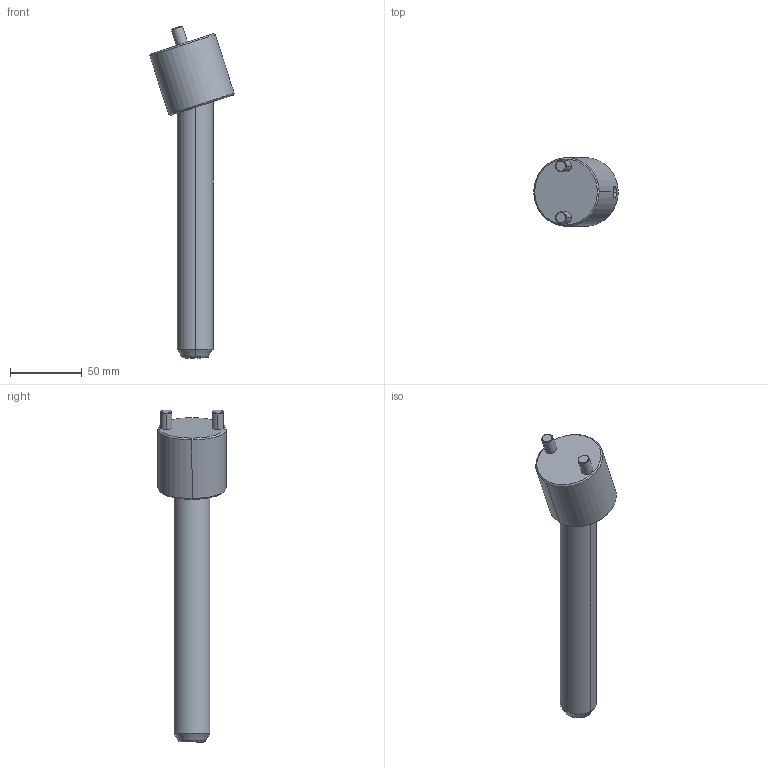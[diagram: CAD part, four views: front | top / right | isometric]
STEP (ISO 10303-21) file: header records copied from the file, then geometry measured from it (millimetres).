
FILE_DESCRIPTION (( 'STEP AP203' ), '1' );
FILE_NAME ('CI1825175.STEP', '2023-12-07T22:53:05', ( '' ), ( '' ), 'SwSTEP 2.0', 'SolidWorks 2017', '' );
FILE_SCHEMA (( 'CONFIG_CONTROL_DESIGN' ));
Length unit declared in the file: millimetre
Products named in the file (3): CI1825175; CP25175; CS1825
Assembly tree (2 placements, depth 2):
  CI1825175
    CP25175
    CS1825
Bounding box: 58.94 x 48 x 231.84 mm (x, y, z)
Volume: 166518.7 mm3; surface area: 31525.8 mm2
Topology: 2 solids, 2 shells, 37 faces, 80 edges, 47 vertices
Faces by surface type: cylinder 14, cone 14, plane 7, bspline 2
Entity records: 1505 total; most frequent: CARTESIAN_POINT 413, DIRECTION 182, ORIENTED_EDGE 156, EDGE_CURVE 78, AXIS2_PLACEMENT_3D 76, VERTEX_POINT 47, EDGE_LOOP 41, ADVANCED_FACE 37
